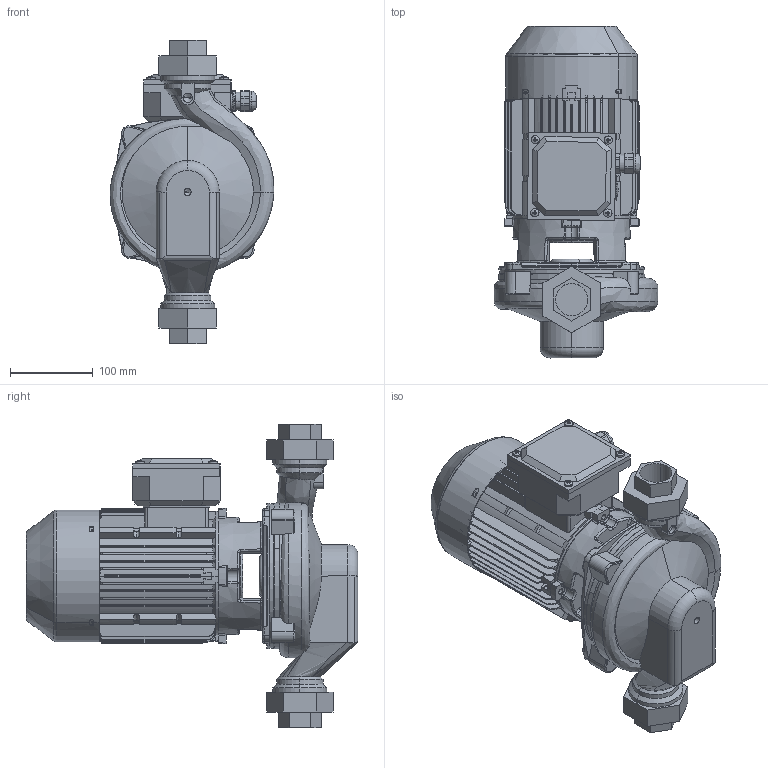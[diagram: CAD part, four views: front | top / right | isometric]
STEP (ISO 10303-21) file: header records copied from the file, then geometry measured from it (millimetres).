
FILE_DESCRIPTION(('STEP AP214'),'1');
FILE_NAME('export.stp','2018-05-28T09:21:37',(' '),(' '),'Spatial InterOp 3D',' ',' ');
FILE_SCHEMA(('AUTOMOTIVE_DESIGN { 1 0 10303 214 1 1 1 1 }'));
Length unit declared in the file: millimetre
Products named in the file (19): W_AE332110_KP80; V_TLAEAP3233L40A; V_PPAE33; 160029; 160001; V_MKP80-1_N13; 160141; 160137; 160138; 160139; 160140; Koura_Ale_M5; Plug_Blind_M20; Sealing_Plug_M20; DIN_7985-M5X8; DIN_7985-M5X12; 480032; 480031___; 160133
Assembly tree (21 placements, depth 4):
  W_AE332110_KP80
    V_TLAEAP3233L40A
    V_PPAE33
    V_MKP80-1_N13
      160029
        160001
      160141
        160137
        160138
        160139
        160140
        Koura_Ale_M5
        Plug_Blind_M20
        Sealing_Plug_M20
        DIN_7985-M5X8
        DIN_7985-M5X12  x4
      480032
        480031___
      160133
Bounding box: 197.6 x 400 x 366 mm (x, y, z)
Volume: 3103682.7 mm3; surface area: 841611.8 mm2
Topology: 17 solids, 17 shells, 1981 faces, 5346 edges, 3410 vertices
Faces by surface type: plane 896, cylinder 537, torus 223, bspline 170, cone 143, sphere 12
Entity records: 76778 total; most frequent: CARTESIAN_POINT 26423, ORIENTED_EDGE 10312, DIRECTION 9513, EDGE_CURVE 5156, AXIS2_PLACEMENT_3D 3544, VERTEX_POINT 3314, LINE 2425, VECTOR 2425
